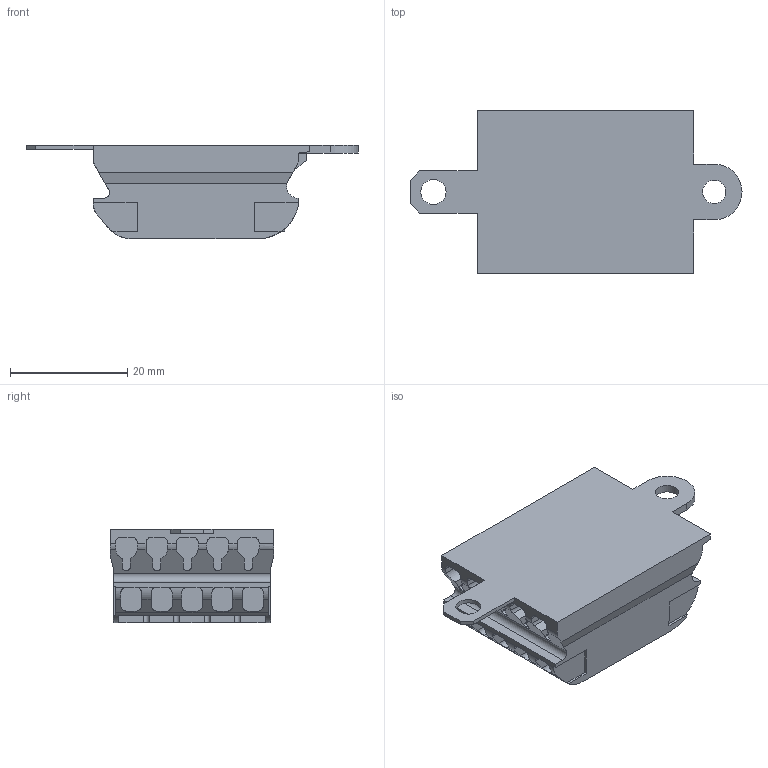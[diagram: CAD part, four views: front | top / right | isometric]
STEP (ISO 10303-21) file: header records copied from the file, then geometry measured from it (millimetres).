
FILE_DESCRIPTION(/* description */ ('Unknown'),/* implementation_level */ '2;1');
FILE_NAME(/* name */ '024-30L-02',/* time_stamp */ '2024-04-04T14:21:34+02:00',/* author */ ('Unknown'),/* organization */ ('Unknown'),/* preprocessor_version */ 'ST-DEVELOPER v16.7',/* originating_system */ 'Solid Edge',/* authorisation */ 'Unknown');
FILE_SCHEMA (('CONFIG_CONTROL_DESIGN','AUTOMOTIVE_DESIGN { 1 0 10303 214 3 1 1 }','AUTOMOTIVE_DESIGN {1 0 10303 214 3 1 1}'));
Length unit declared in the file: millimetre
Products named in the file (1): 024-30L-02
Bounding box: 56.7 x 27.9 x 16 mm (x, y, z)
Volume: 11850.9 mm3; surface area: 6819.2 mm2
Topology: 1 solids, 1 shells, 422 faces, 1220 edges, 811 vertices
Faces by surface type: plane 254, cylinder 168
Full cylindrical faces by diameter (mm): 2.134 x5, 4 x1, 4.3 x1
Entity records: 13986 total; most frequent: CARTESIAN_POINT 2678, ORIENTED_EDGE 2424, DIRECTION 2322, EDGE_CURVE 1212, VERTEX_POINT 810, LINE 802, VECTOR 802, AXIS2_PLACEMENT_3D 760
